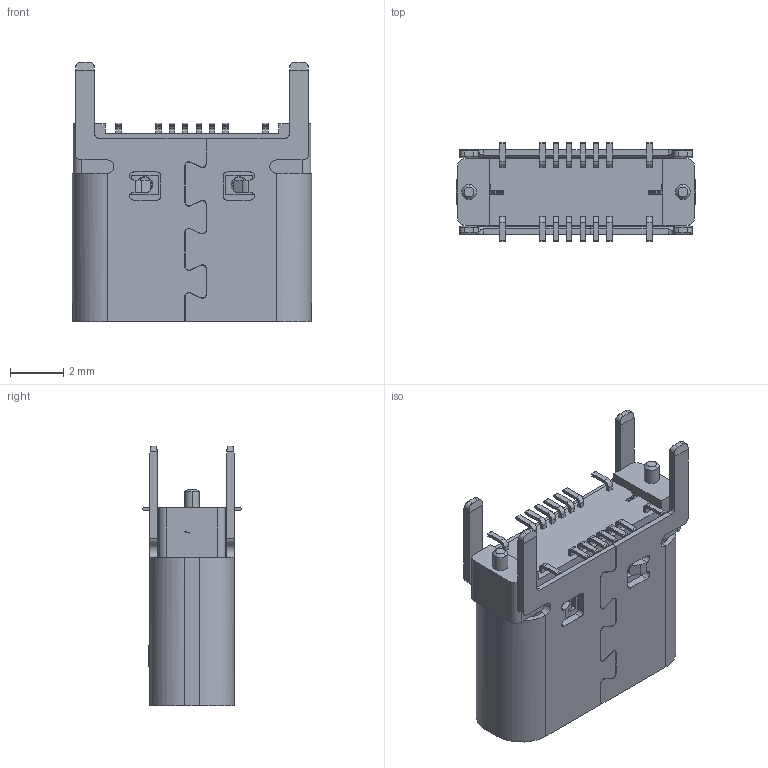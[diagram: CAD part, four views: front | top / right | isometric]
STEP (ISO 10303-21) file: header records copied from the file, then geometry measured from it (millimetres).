
FILE_DESCRIPTION (( 'STEP AP203' ), '1' );
FILE_NAME ('U5466-16PN7.4L.STEP', '2026-09-01T09:50:44', ( '' ), ( '' ), 'SwSTEP 2.0', 'SolidWorks 2024', '' );
FILE_SCHEMA (( 'CONFIG_CONTROL_DESIGN' ));
Length unit declared in the file: millimetre
Products named in the file (1): U5466-16PN7.4L
Bounding box: 8.94 x 3.7 x 9.7 mm (x, y, z)
Surface area: 552.9 mm2 (no closed solid volume)
Topology: 0 solids, 4 shells, 839 faces, 2335 edges, 1535 vertices
Faces by surface type: plane 547, cylinder 221, bspline 37, cone 34
Entity records: 28704 total; most frequent: CARTESIAN_POINT 7399, ORIENTED_EDGE 4666, DIRECTION 4066, EDGE_CURVE 2333, VECTOR 1648, LINE 1648, VERTEX_POINT 1535, AXIS2_PLACEMENT_3D 1209
